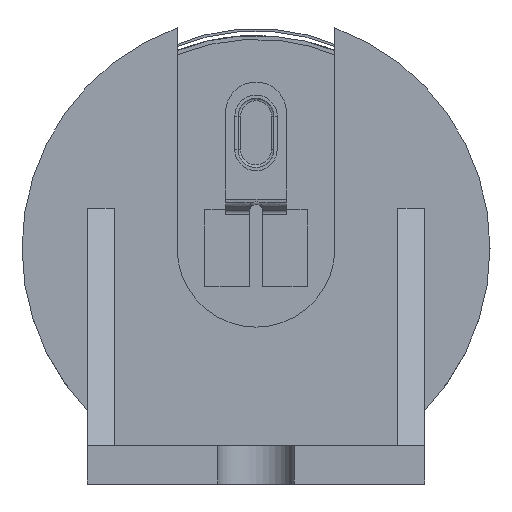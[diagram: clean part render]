
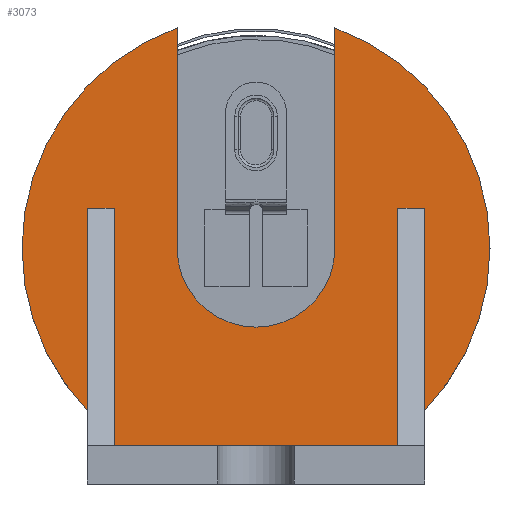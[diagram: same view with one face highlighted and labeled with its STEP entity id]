
A CAD part, left-side view. The second image highlights one B-rep face of the part: STEP entity #3073.
In plain terms, the highlighted free-form (B-spline) face has degree [3, 3] with [4, 4] control points.
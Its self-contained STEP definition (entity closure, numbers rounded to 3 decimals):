
#426=DIRECTION('',(0.,0.,1.));
#427=VECTOR('',#426,17.183);
#428=CARTESIAN_POINT('',(4.4,6.15,18.388));
#429=LINE('',#428,#427);
#464=DIRECTION('',(0.,0.,-1.));
#465=VECTOR('',#464,17.183);
#466=CARTESIAN_POINT('',(4.4,-6.15,35.57));
#467=LINE('',#466,#465);
#541=DIRECTION('',(0.,0.,-1.));
#542=VECTOR('',#541,15.767);
#543=CARTESIAN_POINT('',(4.4,13.15,21.5));
#544=LINE('',#543,#542);
#553=CARTESIAN_POINT('',(4.4,0.,18.388));
#554=DIRECTION('',(-1.,0.,0.));
#555=DIRECTION('',(0.,1.,0.));
#556=AXIS2_PLACEMENT_3D('',#553,#554,#555);
#558=CARTESIAN_POINT('',(4.4,0.,18.388));
#559=DIRECTION('',(1.,0.,0.));
#560=DIRECTION('',(0.,-0.337,0.942));
#561=AXIS2_PLACEMENT_3D('',#558,#559,#560);
#563=CARTESIAN_POINT('',(4.4,0.,18.388));
#564=DIRECTION('',(1.,0.,0.));
#565=DIRECTION('',(0.,-1.,0.));
#566=AXIS2_PLACEMENT_3D('',#563,#564,#565);
#568=CARTESIAN_POINT('',(4.4,0.,18.388));
#569=DIRECTION('',(1.,0.,0.));
#570=DIRECTION('',(0.,0.721,-0.693));
#571=AXIS2_PLACEMENT_3D('',#568,#569,#570);
#573=CARTESIAN_POINT('',(4.4,0.,18.388));
#574=DIRECTION('',(1.,0.,0.));
#575=DIRECTION('',(0.,1.,0.));
#576=AXIS2_PLACEMENT_3D('',#573,#574,#575);
#586=DIRECTION('',(0.,0.,-1.));
#587=VECTOR('',#586,15.767);
#588=CARTESIAN_POINT('',(4.4,-13.15,21.5));
#589=LINE('',#588,#587);
#648=DIRECTION('',(0.,1.,0.));
#649=VECTOR('',#648,22.1);
#650=CARTESIAN_POINT('',(4.4,-11.05,3.));
#651=LINE('',#650,#649);
#652=DIRECTION('',(0.,1.,0.));
#653=VECTOR('',#652,2.1);
#654=CARTESIAN_POINT('',(4.4,11.05,21.5));
#655=LINE('',#654,#653);
#660=DIRECTION('',(0.,0.,-1.));
#661=VECTOR('',#660,18.5);
#662=CARTESIAN_POINT('',(4.4,11.05,21.5));
#663=LINE('',#662,#661);
#672=DIRECTION('',(0.,0.,1.));
#673=VECTOR('',#672,18.5);
#674=CARTESIAN_POINT('',(4.4,-11.05,3.));
#675=LINE('',#674,#673);
#676=DIRECTION('',(0.,1.,0.));
#677=VECTOR('',#676,2.1);
#678=CARTESIAN_POINT('',(4.4,-13.15,21.5));
#679=LINE('',#678,#677);
#1740=CARTESIAN_POINT('',(4.4,6.15,18.388));
#1741=CARTESIAN_POINT('',(4.4,6.15,35.57));
#1742=VERTEX_POINT('',#1740);
#1743=VERTEX_POINT('',#1741);
#1744=CARTESIAN_POINT('',(4.4,18.25,18.388));
#1745=VERTEX_POINT('',#1744);
#1746=CARTESIAN_POINT('',(4.4,13.15,5.733));
#1747=VERTEX_POINT('',#1746);
#1748=CARTESIAN_POINT('',(4.4,13.15,21.5));
#1749=VERTEX_POINT('',#1748);
#1750=CARTESIAN_POINT('',(4.4,11.05,21.5));
#1751=VERTEX_POINT('',#1750);
#1752=CARTESIAN_POINT('',(4.4,11.05,3.));
#1753=VERTEX_POINT('',#1752);
#1754=CARTESIAN_POINT('',(4.4,-11.05,3.));
#1755=VERTEX_POINT('',#1754);
#1756=CARTESIAN_POINT('',(4.4,-11.05,21.5));
#1757=VERTEX_POINT('',#1756);
#1758=CARTESIAN_POINT('',(4.4,-13.15,21.5));
#1759=VERTEX_POINT('',#1758);
#1760=CARTESIAN_POINT('',(4.4,-13.15,5.733));
#1761=VERTEX_POINT('',#1760);
#1762=CARTESIAN_POINT('',(4.4,-18.25,18.388));
#1763=VERTEX_POINT('',#1762);
#1764=CARTESIAN_POINT('',(4.4,-6.15,35.57));
#1765=VERTEX_POINT('',#1764);
#1766=CARTESIAN_POINT('',(4.4,-6.15,18.388));
#1767=VERTEX_POINT('',#1766);
#3031=CARTESIAN_POINT('',(4.4,-18.98,2.349));
#3032=CARTESIAN_POINT('',(4.4,-18.98,13.64));
#3033=CARTESIAN_POINT('',(4.4,-18.98,24.931));
#3034=CARTESIAN_POINT('',(4.4,-18.98,36.222));
#3035=CARTESIAN_POINT('',(4.4,-6.327,2.349));
#3036=CARTESIAN_POINT('',(4.4,-6.327,13.64));
#3037=CARTESIAN_POINT('',(4.4,-6.327,24.931));
#3038=CARTESIAN_POINT('',(4.4,-6.327,36.222));
#3039=CARTESIAN_POINT('',(4.4,6.327,2.349));
#3040=CARTESIAN_POINT('',(4.4,6.327,13.64));
#3041=CARTESIAN_POINT('',(4.4,6.327,24.931));
#3042=CARTESIAN_POINT('',(4.4,6.327,36.222));
#3043=CARTESIAN_POINT('',(4.4,18.98,2.349));
#3044=CARTESIAN_POINT('',(4.4,18.98,13.64));
#3045=CARTESIAN_POINT('',(4.4,18.98,24.931));
#3046=CARTESIAN_POINT('',(4.4,18.98,36.222));
#3047=B_SPLINE_SURFACE_WITH_KNOTS('',3,3,((#3031,#3032,#3033,#3034),(#3035,
#3036,#3037,#3038),(#3039,#3040,#3041,#3042),(#3043,#3044,#3045,#3046)),
.UNSPECIFIED.,.F.,.F.,.F.,(4,4),(4,4),(-18.98,18.98),(-16.039,
17.834),.UNSPECIFIED.);
#3048=ORIENTED_EDGE('',*,*,#2709,.F.);
#3050=ORIENTED_EDGE('',*,*,#3049,.T.);
#3051=ORIENTED_EDGE('',*,*,#2795,.F.);
#3052=ORIENTED_EDGE('',*,*,#2833,.T.);
#3053=ORIENTED_EDGE('',*,*,#2831,.T.);
#3055=ORIENTED_EDGE('',*,*,#3054,.F.);
#3057=ORIENTED_EDGE('',*,*,#3056,.T.);
#3059=ORIENTED_EDGE('',*,*,#3058,.F.);
#3061=ORIENTED_EDGE('',*,*,#3060,.T.);
#3063=ORIENTED_EDGE('',*,*,#3062,.F.);
#3065=ORIENTED_EDGE('',*,*,#3064,.T.);
#3066=ORIENTED_EDGE('',*,*,#3018,.T.);
#3068=ORIENTED_EDGE('',*,*,#3067,.T.);
#3070=ORIENTED_EDGE('',*,*,#3069,.T.);
#3071=EDGE_LOOP('',(#3048,#3050,#3051,#3052,#3053,#3055,#3057,#3059,#3061,#3063,
#3065,#3066,#3068,#3070));
#3072=FACE_OUTER_BOUND('',#3071,.F.);
#557=CIRCLE('',#556,6.15);
#562=CIRCLE('',#561,18.25);
#567=CIRCLE('',#566,18.25);
#572=CIRCLE('',#571,18.25);
#577=CIRCLE('',#576,18.25);
#2709=EDGE_CURVE('',#1742,#1743,#429,.T.);
#2795=EDGE_CURVE('',#1765,#1767,#467,.T.);
#2831=EDGE_CURVE('',#1763,#1761,#567,.T.);
#2833=EDGE_CURVE('',#1765,#1763,#562,.T.);
#3018=EDGE_CURVE('',#1749,#1747,#544,.T.);
#3049=EDGE_CURVE('',#1742,#1767,#557,.T.);
#3054=EDGE_CURVE('',#1759,#1761,#589,.T.);
#3056=EDGE_CURVE('',#1759,#1757,#679,.T.);
#3058=EDGE_CURVE('',#1755,#1757,#675,.T.);
#3060=EDGE_CURVE('',#1755,#1753,#651,.T.);
#3062=EDGE_CURVE('',#1751,#1753,#663,.T.);
#3064=EDGE_CURVE('',#1751,#1749,#655,.T.);
#3067=EDGE_CURVE('',#1747,#1745,#572,.T.);
#3069=EDGE_CURVE('',#1745,#1743,#577,.T.);
#3073=ADVANCED_FACE('',(#3072),#3047,.F.);
